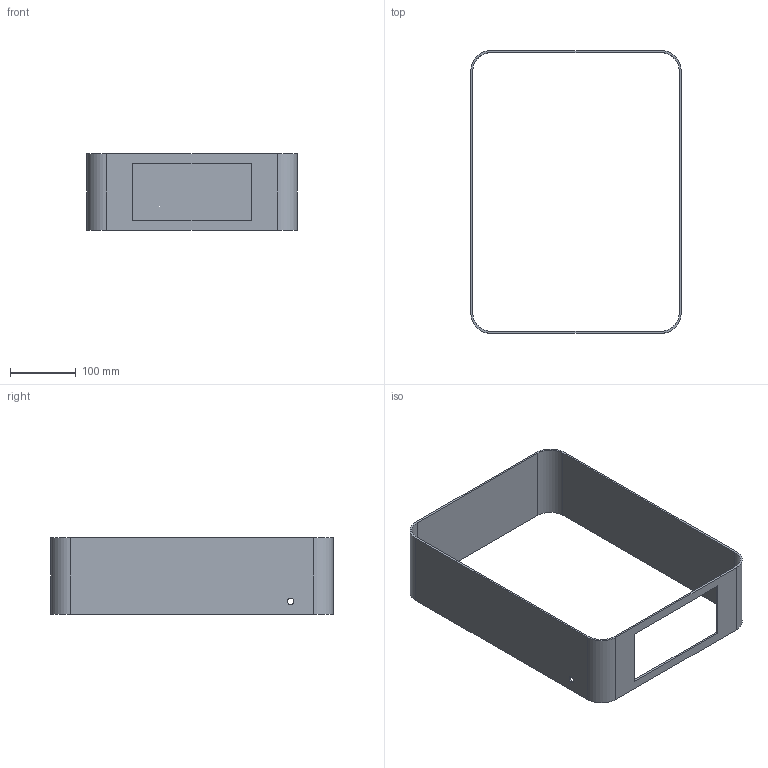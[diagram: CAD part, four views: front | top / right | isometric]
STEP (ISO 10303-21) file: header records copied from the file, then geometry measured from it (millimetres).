
FILE_DESCRIPTION(('Open CASCADE Model'),'2;1');
FILE_NAME('Open CASCADE Shape Model','2026-10-06T19:56:08',('Author'),( 'Open CASCADE'),'Open CASCADE STEP processor 7.9','Open CASCADE 7.9' ,'Unknown');
FILE_SCHEMA(('AUTOMOTIVE_DESIGN { 1 0 10303 214 1 1 1 1 }'));
Length unit declared in the file: millimetre
Products named in the file (1): Open CASCADE STEP translator 7.9 4
Bounding box: 320 x 430 x 116 mm (x, y, z)
Volume: 452805.4 mm3; surface area: 312301.2 mm2
Topology: 1 solids, 1 shells, 24 faces, 66 edges, 44 vertices
Faces by surface type: plane 14, cylinder 10
Full cylindrical faces by diameter (mm): 10 x2
Entity records: 1634 total; most frequent: CARTESIAN_POINT 323, DIRECTION 232, ORIENTED_EDGE 132, PCURVE 132, DEFINITIONAL_REPRESENTATION 132, LINE 126, VECTOR 126, EDGE_CURVE 66
